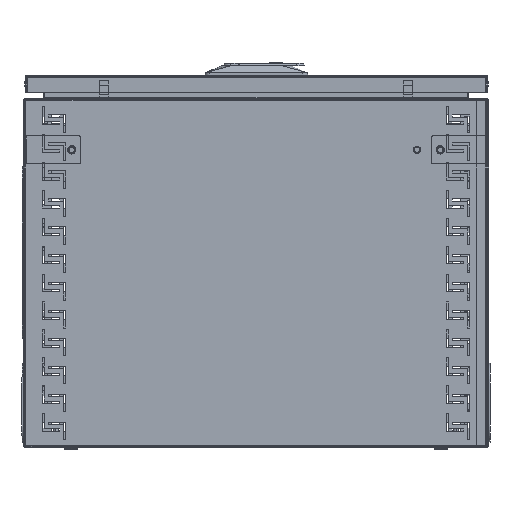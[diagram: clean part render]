
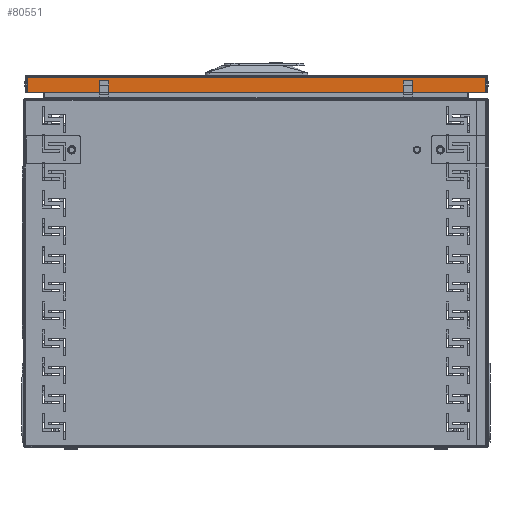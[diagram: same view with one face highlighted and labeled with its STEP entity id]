
A CAD part, left-side view. The second image highlights one B-rep face of the part: STEP entity #80551.
In plain terms, the highlighted planar face has unit normal (-1, 0, 0) as drawn and (1, 0, 0) by its records, which use the part's own axes.
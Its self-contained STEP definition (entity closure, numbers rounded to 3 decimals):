
#2939 = CARTESIAN_POINT ( 'NONE',  ( 298.5, 246.4, 2.1 ) ) ;
#3023 = VERTEX_POINT ( 'NONE', #82236 ) ;
#3284 = EDGE_LOOP ( 'NONE', ( #6772, #50695, #106779, #35343 ) ) ;
#4893 = DIRECTION ( 'NONE',  ( 0., -1., 0. ) ) ;
#5571 = VERTEX_POINT ( 'NONE', #2939 ) ;
#6772 = ORIENTED_EDGE ( 'NONE', *, *, #57015, .F. ) ;
#7254 = VECTOR ( 'NONE', #68800, 1000. ) ;
#7796 = DIRECTION ( 'NONE',  ( 0., 0., -1. ) ) ;
#10769 = EDGE_CURVE ( 'NONE', #79462, #58011, #89234, .T. ) ;
#14764 = CARTESIAN_POINT ( 'NONE',  ( 298.5, -246.4, 18.5 ) ) ;
#17654 = CARTESIAN_POINT ( 'NONE',  ( 298.5, -246.4, 1.5 ) ) ;
#19996 = CARTESIAN_POINT ( 'NONE',  ( 298.5, -246.4, 2.1 ) ) ;
#25765 = EDGE_CURVE ( 'NONE', #3023, #79462, #121807, .T. ) ;
#35343 = ORIENTED_EDGE ( 'NONE', *, *, #10769, .T. ) ;
#37003 = AXIS2_PLACEMENT_3D ( 'NONE', #113175, #122985, #64407 ) ;
#39078 = EDGE_CURVE ( 'NONE', #5571, #3023, #46857, .T. ) ;
#43771 = VECTOR ( 'NONE', #4893, 1000. ) ;
#46263 = CARTESIAN_POINT ( 'NONE',  ( 298.5, -246.4, 2.1 ) ) ;
#46857 = LINE ( 'NONE', #68106, #121873 ) ;
#48394 = DIRECTION ( 'NONE',  ( 0., 0., 1. ) ) ;
#50695 = ORIENTED_EDGE ( 'NONE', *, *, #39078, .T. ) ;
#57015 = EDGE_CURVE ( 'NONE', #5571, #58011, #82362, .T. ) ;
#58011 = VERTEX_POINT ( 'NONE', #46263 ) ;
#64407 = DIRECTION ( 'NONE',  ( 0., 0., 1. ) ) ;
#68106 = CARTESIAN_POINT ( 'NONE',  ( 298.5, 246.4, 18.5 ) ) ;
#68800 = DIRECTION ( 'NONE',  ( 0., -1., 0. ) ) ;
#79462 = VERTEX_POINT ( 'NONE', #114729 ) ;
#80551 = ADVANCED_FACE ( 'NONE', ( #85947 ), #83684, .F. ) ;
#82236 = CARTESIAN_POINT ( 'NONE',  ( 298.5, 246.4, 18.5 ) ) ;
#82362 = LINE ( 'NONE', #19996, #7254 ) ;
#83684 = PLANE ( 'NONE',  #37003 ) ;
#85947 = FACE_OUTER_BOUND ( 'NONE', #3284, .T. ) ;
#86183 = VECTOR ( 'NONE', #7796, 1000. ) ;
#89234 = LINE ( 'NONE', #17654, #86183 ) ;
#106779 = ORIENTED_EDGE ( 'NONE', *, *, #25765, .T. ) ;
#113175 = CARTESIAN_POINT ( 'NONE',  ( 298.5, -246.4, 18.5 ) ) ;
#114729 = CARTESIAN_POINT ( 'NONE',  ( 298.5, -246.4, 18.5 ) ) ;
#121807 = LINE ( 'NONE', #14764, #43771 ) ;
#121873 = VECTOR ( 'NONE', #48394, 1000. ) ;
#122985 = DIRECTION ( 'NONE',  ( -1., 0., 0. ) ) ;
